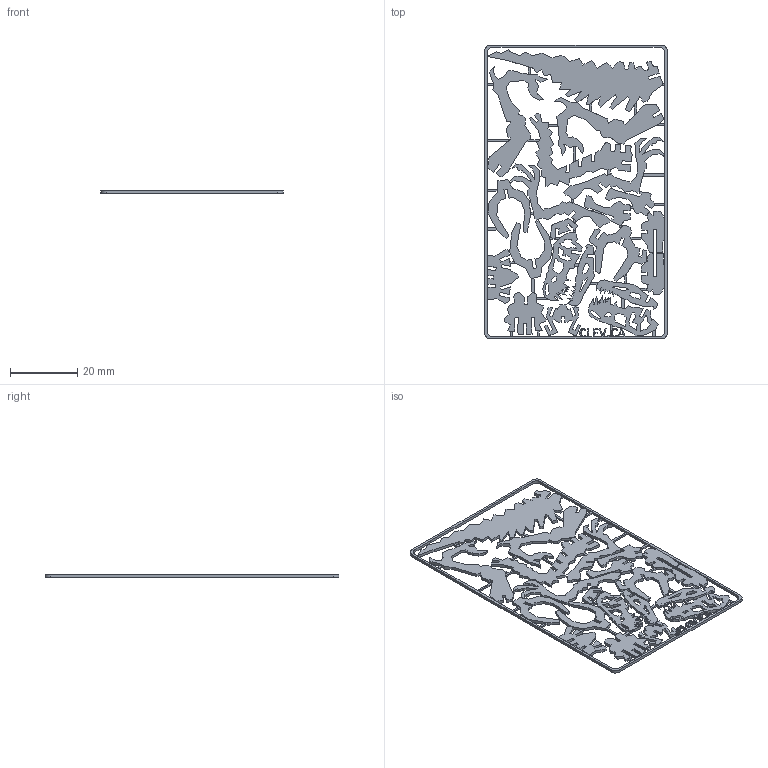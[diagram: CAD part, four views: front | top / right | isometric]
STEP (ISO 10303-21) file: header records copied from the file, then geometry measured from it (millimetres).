
FILE_DESCRIPTION( ( 'Unknown' ), '1' );
FILE_NAME( 'C:/Users/kcleven/Desktop/printer/businessCard/rap/normaltail.stp', 'Unknown', ( 'Unknown' ), ( 'Unknown' ), 'PSStep 15.0.49', 'Unknown', ' ' );
FILE_SCHEMA( ( 'AUTOMOTIVE_DESIGN { 1 0 10303 214 1 1 1 1 }' ) );
Length unit declared in the file: millimetre
Products named in the file (1): 00-OuterSupport-oa0
Bounding box: 54.26 x 87.47 x 0.85 mm (x, y, z)
Volume: 2111.5 mm3; surface area: 7219.6 mm2
Topology: 1 solids, 1 shells, 1303 faces, 3987 edges, 2658 vertices
Faces by surface type: plane 1214, cylinder 45, extrusion 44
Entity records: 55752 total; most frequent: CARTESIAN_POINT 9607, ORIENTED_EDGE 7974, DIRECTION 6534, EDGE_CURVE 3987, VECTOR 3828, LINE 3784, VERTEX_POINT 2658, EDGE_LOOP 1365
